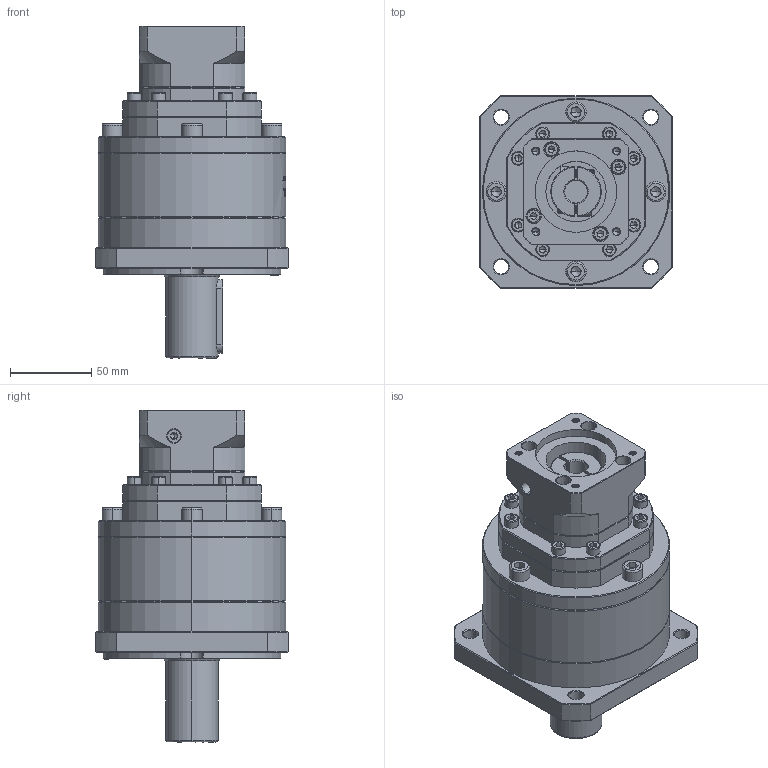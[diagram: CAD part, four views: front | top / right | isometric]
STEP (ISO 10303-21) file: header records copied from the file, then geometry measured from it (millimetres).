
FILE_DESCRIPTION (( 'STEP AP214' ), '1' );
FILE_NAME ('ZF120A-D32-L3-14-50-70-M5.step', '2023-03-07T15:55:52', ( '' ), ( 'Microsoft' ), 'SwSTEP 2.0', 'SolidWorks 2016', '' );
FILE_SCHEMA (( 'AUTOMOTIVE_DESIGN' ));
Length unit declared in the file: millimetre
Products named in the file (1): ZF120A-D32-L3-14-50-70-M5
Bounding box: 118 x 118 x 204 mm (x, y, z)
Volume: 1225467.5 mm3; surface area: 117147.8 mm2
Topology: 7 solids, 7 shells, 2083 faces, 5475 edges, 3495 vertices
Faces by surface type: plane 1002, cylinder 423, bspline 337, cone 299, torus 22
Entity records: 109933 total; most frequent: CARTESIAN_POINT 39392, ORIENTED_EDGE 10842, DIRECTION 8585, EDGE_CURVE 5421, VERTEX_POINT 3495, LINE 2985, VECTOR 2985, AXIS2_PLACEMENT_3D 2800
